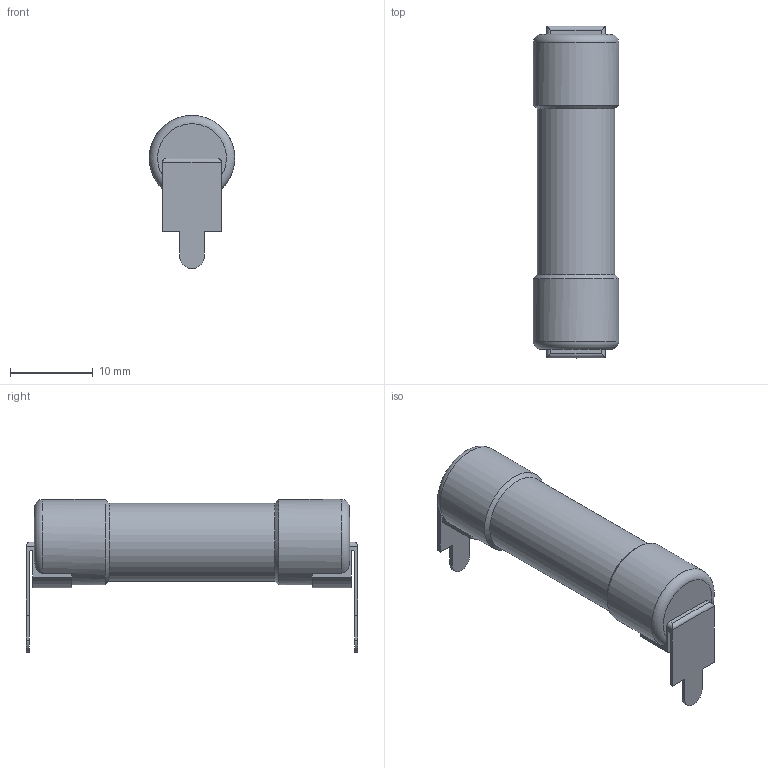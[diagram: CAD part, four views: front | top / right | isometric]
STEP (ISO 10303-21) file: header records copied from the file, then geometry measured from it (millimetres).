
FILE_DESCRIPTION(/* description */ (''),/* implementation_level */ '2;1');
FILE_NAME(/* name */ 'AE2xxxx606.stp',/* time_stamp */ '2020-05-15T08:39:24+08:00',/* author */ (''),/* organization */ (''),/* preprocessor_version */ 'ST-DEVELOPER v11',/* originating_system */ 'SIEMENS PLM Software NX 7.5',/* authorisation */ '');
FILE_SCHEMA (('AUTOMOTIVE_DESIGN { 1 0 10303 214 1 1 1 1 }'));
Length unit declared in the file: millimetre
Products named in the file (1): Leno6DF1cjme
Bounding box: 10.3 x 40 x 18.45 mm (x, y, z)
Volume: 2975.5 mm3; surface area: 1666.8 mm2
Topology: 1 solids, 1 shells, 43 faces, 116 edges, 75 vertices
Faces by surface type: plane 24, cylinder 15, cone 2, torus 2
Full cylindrical faces by diameter (mm): 9.4 x1, 10.3 x2
Entity records: 1368 total; most frequent: CARTESIAN_POINT 284, DIRECTION 222, ORIENTED_EDGE 216, EDGE_CURVE 108, LINE 74, VECTOR 74, AXIS2_PLACEMENT_3D 74, VERTEX_POINT 72
